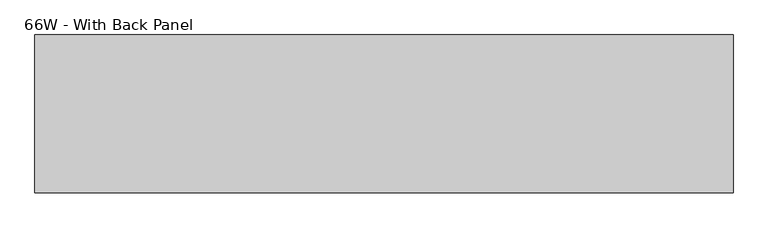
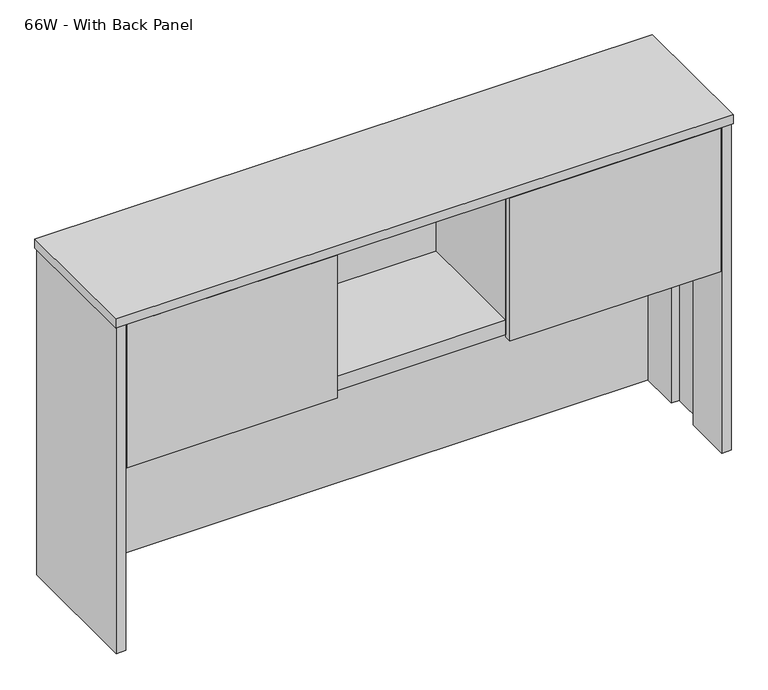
"""IFC4 building model written with IfcOpenShell, lengths in millimetres: furniture geometry, Steelcase - Kick Freestanding - Overhead Storage Cabinet With Hinge Door : 66W - With Back Panel."""

from ifc_helpers import new_model, si_unit, frame, origin, place, context, project, spatial, polyline, outline, extrude, source, transform, mapped, element, save


def furniture_66w_with_back_panel_7b28386c(model_context):
    return source(origin(), model_context, "Body", "SweptSolid", [
        extrude(outline(polyline([(606.2138992, -377.8250114), (593.5138992, -377.8250114), (593.5138992, -53.9789719), (606.2138992, -53.9789719), (606.2138992, -377.8250114)])), frame((0.0, 0.0, 1018.943073), z_axis=(0.0, 0.0, 1.0), x_axis=(1.0, 0.0, 0.0)), (0.0, 0.0, 1.0), 403.225),
        extrude(outline(polyline([(1069.7638992, -377.8250114), (1069.7638992, -53.9789719), (1082.4638992, -53.9789719), (1082.4638992, -377.8250114), (1069.7638992, -377.8250114)])), frame((0.0, 0.0, 1018.943073), z_axis=(0.0, 0.0, 1.0), x_axis=(1.0, 0.0, 0.0)), (0.0, 0.0, 1.0), 403.225),
        extrude(outline(polyline([(1637.9618992, -28.5781763), (1663.4872195, -28.5781763), (1663.4872195, -396.8781725), (1637.9618992, -396.8781725), (1637.9618992, -263.5281725), (1660.3122191, -263.5281725), (1660.3122191, -161.9281786), (1637.9618992, -161.9281786), (1637.9618992, -28.5781763)])), frame((0.0, 0.0, 495.068073), z_axis=(0.0, 0.0, 1.0), x_axis=(1.0, 0.0, 0.0)), (0.0, 0.0, 1.0), 927.1),
        extrude(outline(polyline([(1069.7638992, -377.8250114), (1634.9126896, -377.8250114), (1634.9126896, -396.8750114), (1069.7638992, -396.8750114), (1069.7638992, -377.8250114)])), frame((0.0, 0.0, 1012.5930246), z_axis=(0.0, 0.0, 1.0), x_axis=(1.0, 0.0, 0.0)), (0.0, 0.0, 1.0), 406.4000484),
        extrude(outline(polyline([(1069.7639098, -377.8250114), (606.2138992, -377.8250114), (606.2138992, -53.9789719), (1069.7639098, -53.9789719), (1069.7639098, -377.8250114)])), frame((0.0, 0.0, 1018.943073), z_axis=(0.0, 0.0, 1.0), x_axis=(1.0, 0.0, 0.0)), (0.0, 0.0, 1.0), 41.2749516),
        extrude(outline(polyline([(606.2138992, -377.8250114), (606.2138992, -396.8750114), (41.0639007, -396.8750114), (41.0639007, -377.8250114), (606.2138992, -377.8250114)])), frame((0.0, 0.0, 1012.5930246), z_axis=(0.0, 0.0, 1.0), x_axis=(1.0, 0.0, 0.0)), (0.0, 0.0, 1.0), 406.4000484),
        extrude(outline(polyline([(1637.9618992, -53.9789719), (38.0158992, -53.9789719), (38.0158992, -28.5789734), (1637.9618992, -28.5789734), (1637.9618992, -53.9789719)])), frame((0.0, 0.0, 495.068073), z_axis=(0.0, 0.0, 1.0), x_axis=(1.0, 0.0, 0.0)), (0.0, 0.0, 1.0), 927.1),
        extrude(outline(polyline([(38.0158992, -28.5781763), (38.0158992, -161.9281786), (15.6638988, -161.9281786), (15.6638988, -263.5281725), (38.0158992, -263.5281725), (38.0158992, -396.8781725), (12.4888985, -396.8781725), (12.4888985, -28.5781763), (38.0158992, -28.5781763)])), frame((0.0, 0.0, 495.068073), z_axis=(0.0, 0.0, 1.0), x_axis=(1.0, 0.0, 0.0)), (0.0, 0.0, 1.0), 927.1),
        extrude(outline(polyline([(1666.6638992, -25.4), (1666.6638992, -400.05), (9.3138992, -400.05), (9.3138992, -25.4), (1666.6638992, -25.4)])), frame((0.0, 0.0, 1422.168073), z_axis=(0.0, 0.0, 1.0), x_axis=(1.0, 0.0, 0.0)), (0.0, 0.0, 1.0), 25.4),
    ])


if __name__ == "__main__":
    model = new_model("IFC4")
    model_context = context("Model", 3, world=origin())
    ifc_project = project(units=[si_unit("LENGTHUNIT", "METRE", prefix="MILLI")], contexts=[model_context])
    site = spatial("IfcSite", under=ifc_project)
    building = spatial("IfcBuilding", under=site)
    placement = place(None, origin())
    furniture_66w_with_back_panel_shape = furniture_66w_with_back_panel_7b28386c(model_context)
    element("IfcFurniture", 1, ObjectType="Steelcase - Kick Freestanding - Overhead Storage Cabinet With Hinge Door : 66W - With Back Panel", at=placement, inside=building, context=model_context, shape_type="MappedRepresentation", body=[
        mapped(furniture_66w_with_back_panel_shape, transform((0.0, 0.0, 0.0), x_axis=(1.0, 0.0, 0.0), y_axis=(0.0, 1.0, 0.0), z_axis=(0.0, 0.0, 1.0))),
    ])
    save(model, "model.ifc")
